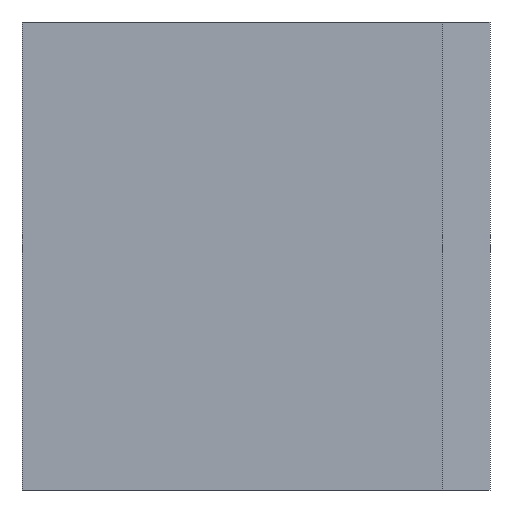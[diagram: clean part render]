
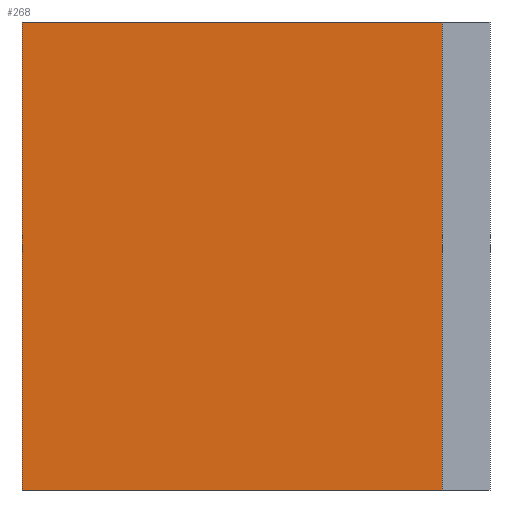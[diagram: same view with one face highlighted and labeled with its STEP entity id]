
A CAD part, left-side view. The second image highlights one B-rep face of the part: STEP entity #268.
In plain terms, the highlighted planar face has unit normal (-1, 0, 0).
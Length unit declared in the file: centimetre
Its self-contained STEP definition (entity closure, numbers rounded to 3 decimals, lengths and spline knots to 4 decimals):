
#16 = DIRECTION ( 'NONE',  ( 1., 0., 0. ) ) ;
#39 = CARTESIAN_POINT ( 'NONE',  ( 0., 101.7377, 0. ) ) ;
#61 = DIRECTION ( 'NONE',  ( 0., -1., 0. ) ) ;
#72 = VERTEX_POINT ( 'NONE', #238 ) ;
#86 = CARTESIAN_POINT ( 'NONE',  ( 0., 1000., 0. ) ) ;
#102 = AXIS2_PLACEMENT_3D ( 'NONE', #329, #16, #144 ) ;
#120 = CARTESIAN_POINT ( 'NONE',  ( 0., 1000., 1000. ) ) ;
#140 = VECTOR ( 'NONE', #288, 100. ) ;
#144 = DIRECTION ( 'NONE',  ( 0., 0., -1. ) ) ;
#162 = EDGE_CURVE ( 'NONE', #201, #72, #286, .T. ) ;
#172 = CARTESIAN_POINT ( 'NONE',  ( 0., 1000., 1000. ) ) ;
#174 = CARTESIAN_POINT ( 'NONE',  ( 0., 101.7377, 1000. ) ) ;
#177 = ORIENTED_EDGE ( 'NONE', *, *, #280, .F. ) ;
#178 = VECTOR ( 'NONE', #61, 100. ) ;
#179 = CARTESIAN_POINT ( 'NONE',  ( 0., 101.7377, 1000. ) ) ;
#201 = VERTEX_POINT ( 'NONE', #172 ) ;
#206 = CARTESIAN_POINT ( 'NONE',  ( 0., 1000., 1000. ) ) ;
#221 = LINE ( 'NONE', #120, #290 ) ;
#238 = CARTESIAN_POINT ( 'NONE',  ( 0., 1000., 0. ) ) ;
#241 = LINE ( 'NONE', #86, #178 ) ;
#248 = PLANE ( 'NONE',  #102 ) ;
#252 = EDGE_LOOP ( 'NONE', ( #256, #336, #177, #279 ) ) ;
#253 = VERTEX_POINT ( 'NONE', #179 ) ;
#256 = ORIENTED_EDGE ( 'NONE', *, *, #260, .T. ) ;
#260 = EDGE_CURVE ( 'NONE', #72, #307, #241, .T. ) ;
#268 = ADVANCED_FACE ( 'NONE', ( #270 ), #248, .F. ) ;
#269 = LINE ( 'NONE', #174, #305 ) ;
#270 = FACE_OUTER_BOUND ( 'NONE', #252, .T. ) ;
#271 = EDGE_CURVE ( 'NONE', #307, #253, #269, .T. ) ;
#279 = ORIENTED_EDGE ( 'NONE', *, *, #162, .T. ) ;
#280 = EDGE_CURVE ( 'NONE', #201, #253, #221, .T. ) ;
#286 = LINE ( 'NONE', #206, #140 ) ;
#288 = DIRECTION ( 'NONE',  ( 0., 0., -1. ) ) ;
#290 = VECTOR ( 'NONE', #333, 100. ) ;
#305 = VECTOR ( 'NONE', #324, 100. ) ;
#307 = VERTEX_POINT ( 'NONE', #39 ) ;
#324 = DIRECTION ( 'NONE',  ( 0., 0., 1. ) ) ;
#329 = CARTESIAN_POINT ( 'NONE',  ( 0., 1000., 1000. ) ) ;
#333 = DIRECTION ( 'NONE',  ( 0., -1., 0. ) ) ;
#336 = ORIENTED_EDGE ( 'NONE', *, *, #271, .T. ) ;
